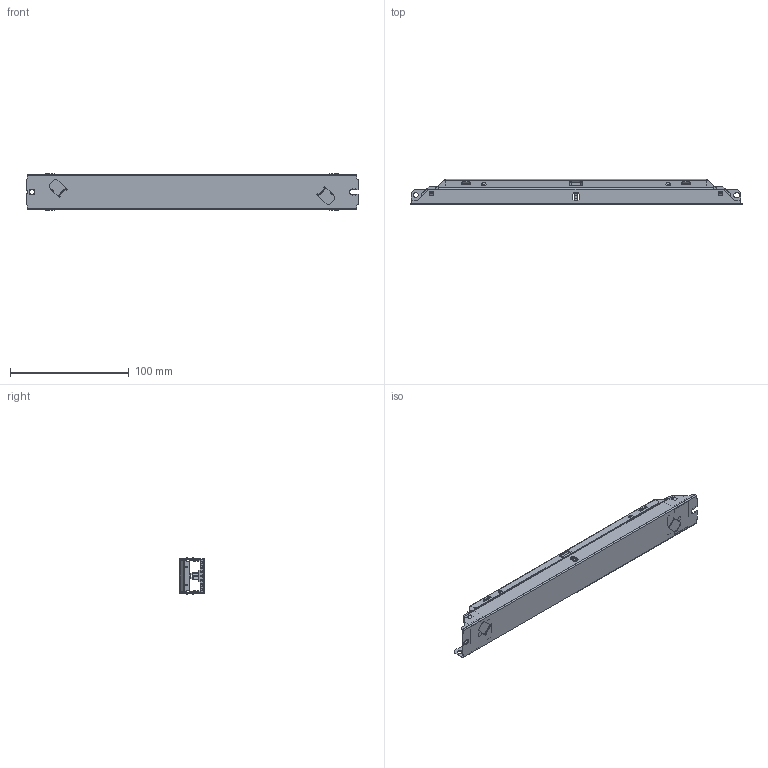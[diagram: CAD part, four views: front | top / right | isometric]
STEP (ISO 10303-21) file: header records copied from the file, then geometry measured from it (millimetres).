
FILE_DESCRIPTION((''),'2;1');
FILE_NAME('00-280_ASM','2022-10-28T',('admin'),(''),'PRO/ENGINEER BY PARAMETRIC TECHNOLOGY CORPORATION, 2015240','PRO/ENGINEER BY PARAMETRIC TECHNOLOGY CORPORATION, 2015240','');
FILE_SCHEMA(('CONFIG_CONTROL_DESIGN','SHAPE_APPEARANCE_LAYERS_GROUPS'));
Length unit declared in the file: millimetre
Products named in the file (4): DZZLQ_SHENG-270220_21; V2; DZZLQ_GAI-270220_23; 00-280_ASM
Assembly tree (4 placements, depth 2):
  00-280_ASM
    DZZLQ_SHENG-270220_21
    V2  x2
    DZZLQ_GAI-270220_23
Bounding box: 279 x 21 x 30.7 mm (x, y, z)
Volume: 13957.2 mm3; surface area: 60230.6 mm2
Topology: 4 solids, 4 shells, 1714 faces, 4644 edges, 2976 vertices
Faces by surface type: plane 1354, cylinder 252, bspline 96, extrusion 8, sphere 4
Entity records: 51616 total; most frequent: CARTESIAN_POINT 11084, ORIENTED_EDGE 6428, DIRECTION 5543, PRESENTATION_STYLE_ASSIGNMENT 3375, STYLED_ITEM 3229, CURVE_STYLE 3214, EDGE_CURVE 3214, VECTOR 2547
